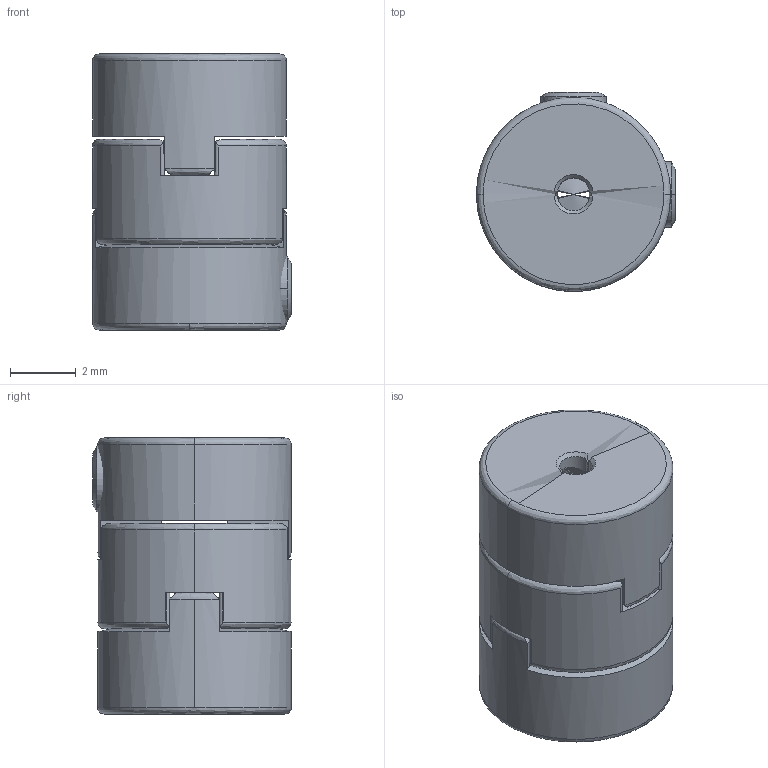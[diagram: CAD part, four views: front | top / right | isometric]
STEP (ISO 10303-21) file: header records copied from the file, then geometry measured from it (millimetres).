
FILE_DESCRIPTION (( 'STEP AP214' ), '1' );
FILE_NAME ('SOH-6 ASS''Y.STEP', '2016-02-05T05:12:34', ( '' ), ( '' ), 'SwSTEP 2.0', 'SolidWorks 2015', '' );
FILE_SCHEMA (( 'AUTOMOTIVE_DESIGN' ));
Length unit declared in the file: millimetre
Products named in the file (1): SOH-6 ASS''Y
Bounding box: 6.05 x 6.05 x 8.4 mm (x, y, z)
Surface area: 329.7 mm2 (no closed solid volume)
Topology: 0 solids, 5 shells, 96 faces, 268 edges, 167 vertices
Faces by surface type: plane 42, cylinder 29, bspline 13, cone 12
Entity records: 4584 total; most frequent: CARTESIAN_POINT 1222, DIRECTION 464, ORIENTED_EDGE 451, EDGE_CURVE 260, AXIS2_PLACEMENT_3D 168, VERTEX_POINT 167, LINE 128, VECTOR 128
